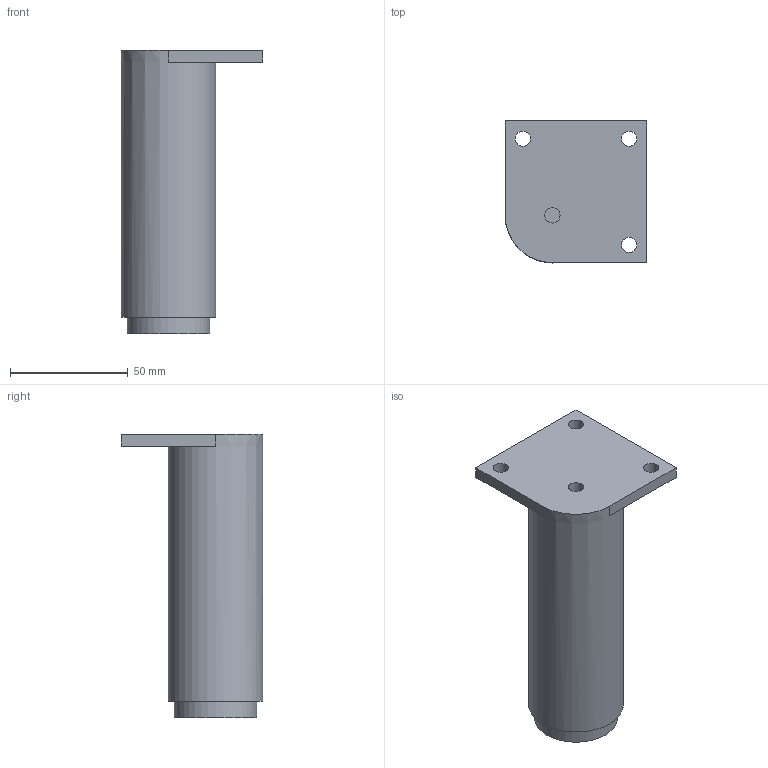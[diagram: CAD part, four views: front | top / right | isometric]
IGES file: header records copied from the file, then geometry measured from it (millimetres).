
Start section: Data from Parasolid IGES Translator 20.0.26, Copyright(c) 2006 Siemens P LM Software. All Rights Reserved.
Global section: file name: 9119553.igs; native system: By Siemens PLM Incorporated; preprocessor: XPlus GENERIC/IGES 20.0.26; author: Noname; organization: Noname; date: 20210125.170636; units: millimetre
Bounding box: 60 x 60 x 120 mm (x, y, z)
Surface area: 22736.1 mm2 (no closed solid volume)
Topology: 0 solids, 0 shells, 15 faces, 66 edges, 57 vertices
Faces by surface type: extrusion 9, revolution 6
